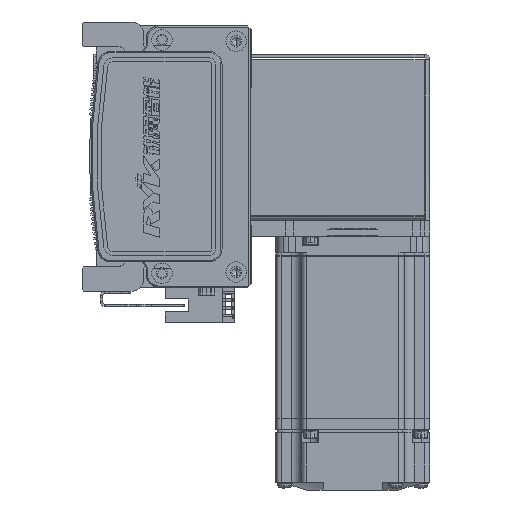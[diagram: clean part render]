
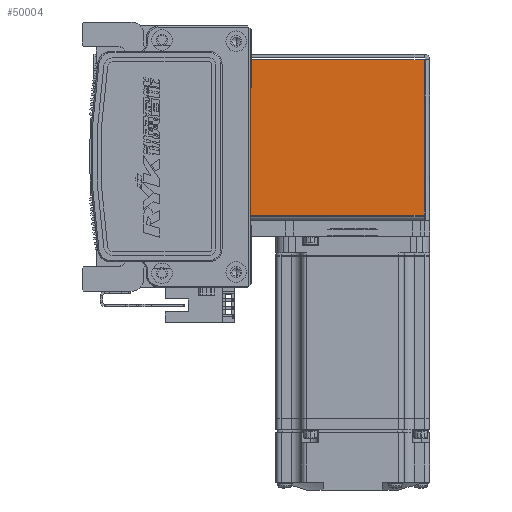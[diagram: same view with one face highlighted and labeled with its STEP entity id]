
A CAD part, left-side view. The second image highlights one B-rep face of the part: STEP entity #50004.
In plain terms, the highlighted planar face has unit normal (-1, 0, 0) as drawn and (0, 0, -1) by its records, which use the part's own axes.
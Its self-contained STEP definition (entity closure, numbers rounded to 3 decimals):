
#1510 = VERTEX_POINT ( 'NONE', #3298 ) ;
#2573 = CARTESIAN_POINT ( 'NONE',  ( 30.263, 0.737, -35. ) ) ;
#3202 = CARTESIAN_POINT ( 'NONE',  ( 32.5, 0.737, -35. ) ) ;
#3298 = CARTESIAN_POINT ( 'NONE',  ( -30.293, 0.737, -35. ) ) ;
#5772 = CARTESIAN_POINT ( 'NONE',  ( 30.263, 72.5, -35. ) ) ;
#6947 = LINE ( 'NONE', #3202, #71547 ) ;
#7140 = VERTEX_POINT ( 'NONE', #49618 ) ;
#10412 = LINE ( 'NONE', #72387, #67823 ) ;
#11889 = FACE_OUTER_BOUND ( 'NONE', #28601, .T. ) ;
#15239 = CARTESIAN_POINT ( 'NONE',  ( -30.293, 0., -35. ) ) ;
#15316 = ORIENTED_EDGE ( 'NONE', *, *, #25055, .T. ) ;
#15690 = DIRECTION ( 'NONE',  ( 1., 0., 0. ) ) ;
#16876 = EDGE_CURVE ( 'NONE', #1510, #22258, #6947, .T. ) ;
#18710 = PLANE ( 'NONE',  #64523 ) ;
#20991 = LINE ( 'NONE', #15239, #64925 ) ;
#22258 = VERTEX_POINT ( 'NONE', #2573 ) ;
#24281 = VECTOR ( 'NONE', #46122, 1000. ) ;
#25055 = EDGE_CURVE ( 'NONE', #7140, #65979, #10412, .T. ) ;
#28601 = EDGE_LOOP ( 'NONE', ( #49127, #65170, #31050, #15316 ) ) ;
#30270 = DIRECTION ( 'NONE',  ( 0., 0., 1. ) ) ;
#31050 = ORIENTED_EDGE ( 'NONE', *, *, #36993, .T. ) ;
#31869 = DIRECTION ( 'NONE',  ( 0., 1., 0. ) ) ;
#36093 = CARTESIAN_POINT ( 'NONE',  ( 30.263, 72.5, -35. ) ) ;
#36993 = EDGE_CURVE ( 'NONE', #1510, #7140, #20991, .T. ) ;
#39502 = LINE ( 'NONE', #5772, #24281 ) ;
#46122 = DIRECTION ( 'NONE',  ( 0., -1., 0. ) ) ;
#49127 = ORIENTED_EDGE ( 'NONE', *, *, #63860, .T. ) ;
#49618 = CARTESIAN_POINT ( 'NONE',  ( -30.293, 72.5, -35. ) ) ;
#49798 = DIRECTION ( 'NONE',  ( 1., 0., 0. ) ) ;
#50004 = ADVANCED_FACE ( 'NONE', ( #11889 ), #18710, .F. ) ;
#63860 = EDGE_CURVE ( 'NONE', #65979, #22258, #39502, .T. ) ;
#64321 = DIRECTION ( 'NONE',  ( 0., -1., 0. ) ) ;
#64523 = AXIS2_PLACEMENT_3D ( 'NONE', #64570, #30270, #64321 ) ;
#64570 = CARTESIAN_POINT ( 'NONE',  ( 0., 0., -35. ) ) ;
#64925 = VECTOR ( 'NONE', #31869, 1000. ) ;
#65170 = ORIENTED_EDGE ( 'NONE', *, *, #16876, .F. ) ;
#65979 = VERTEX_POINT ( 'NONE', #36093 ) ;
#67823 = VECTOR ( 'NONE', #49798, 1000. ) ;
#71547 = VECTOR ( 'NONE', #15690, 1000. ) ;
#72387 = CARTESIAN_POINT ( 'NONE',  ( 0., 72.5, -35. ) ) ;
